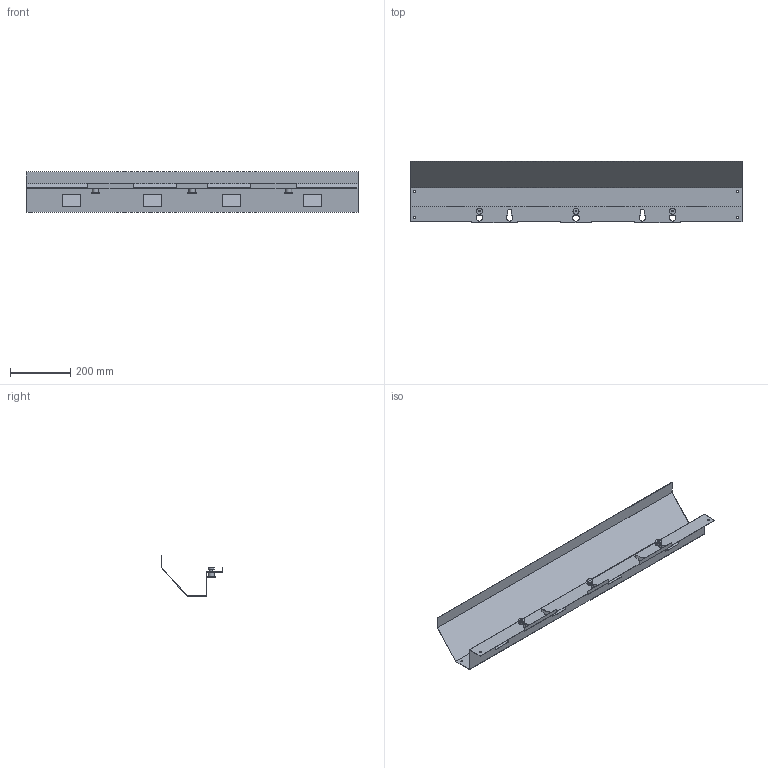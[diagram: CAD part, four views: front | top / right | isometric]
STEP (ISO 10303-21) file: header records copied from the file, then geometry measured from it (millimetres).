
FILE_DESCRIPTION( ( 'STEP AP214' ), '1' );
FILE_NAME( 'C:/Users/KOSH/Desktop/New folder/2021/Actiforce/Export/9309803.stp', '2021-12-03T09:50:05', ( '' ), ( '' ), ' ', 'PARTsolutions', ' ' );
FILE_SCHEMA( ( 'AUTOMOTIVE_DESIGN { 1 0 10303 214 1 1 1 1 }' ) );
Length unit declared in the file: millimetre
Products named in the file (1): _9309803
Bounding box: 1100 x 205 x 134.53 mm (x, y, z)
Volume: 417862.9 mm3; surface area: 799607.6 mm2
Topology: 1 solids, 1 shells, 108 faces, 298 edges, 198 vertices
Faces by surface type: plane 73, cylinder 35
Full cylindrical faces by diameter (mm): 5.2 x3, 7 x4, 10 x3, 20 x6
Entity records: 4252 total; most frequent: CARTESIAN_POINT 575, DIRECTION 566, ORIENTED_EDGE 550, EDGE_CURVE 275, LINE 202, VECTOR 202, VERTEX_POINT 191, AXIS2_PLACEMENT_3D 182
